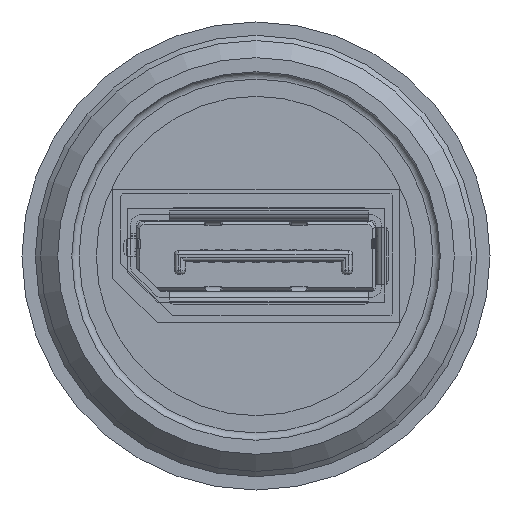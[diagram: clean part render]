
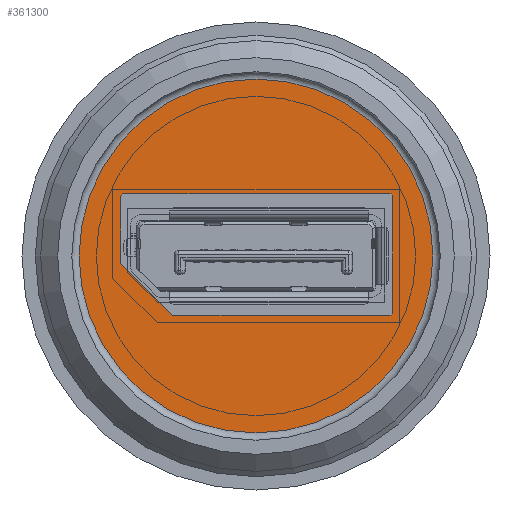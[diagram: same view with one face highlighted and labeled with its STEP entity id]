
A CAD part, front view. The second image highlights one B-rep face of the part: STEP entity #361300.
In plain terms, the highlighted planar face has unit normal (0, -1, 0).
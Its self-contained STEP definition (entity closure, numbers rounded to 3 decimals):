
#361254 = VERTEX_POINT('',#361255);
#361255 = CARTESIAN_POINT('',(11.91,-6.5,0.));
#361264 = EDGE_CURVE('',#361254,#361254,#361265,.T.);
#361265 = CIRCLE('',#361266,11.91);
#361266 = AXIS2_PLACEMENT_3D('',#361267,#361268,#361269);
#361267 = CARTESIAN_POINT('',(0.,-6.5,0.));
#361268 = DIRECTION('',(0.,1.,0.));
#361269 = DIRECTION('',(1.,0.,0.));
#361300 = ADVANCED_FACE('',(#361301,#361304),#361373,.F.);
#361301 = FACE_BOUND('',#361302,.F.);
#361302 = EDGE_LOOP('',(#361303));
#361303 = ORIENTED_EDGE('',*,*,#361264,.T.);
#361304 = FACE_BOUND('',#361305,.F.);
#361305 = EDGE_LOOP('',(#361306,#361317,#361325,#361333,#361341,#361350,
    #361358,#361367));
#361306 = ORIENTED_EDGE('',*,*,#361307,.F.);
#361307 = EDGE_CURVE('',#361308,#361310,#361312,.T.);
#361308 = VERTEX_POINT('',#361309);
#361309 = CARTESIAN_POINT('',(-9.1,-6.5,4.));
#361310 = VERTEX_POINT('',#361311);
#361311 = CARTESIAN_POINT('',(-8.9,-6.5,4.2));
#361312 = CIRCLE('',#361313,0.2);
#361313 = AXIS2_PLACEMENT_3D('',#361314,#361315,#361316);
#361314 = CARTESIAN_POINT('',(-8.9,-6.5,4.));
#361315 = DIRECTION('',(0.,1.,-0.));
#361316 = DIRECTION('',(-1.,0.,0.));
#361317 = ORIENTED_EDGE('',*,*,#361318,.T.);
#361318 = EDGE_CURVE('',#361308,#361319,#361321,.T.);
#361319 = VERTEX_POINT('',#361320);
#361320 = CARTESIAN_POINT('',(-9.1,-6.5,-0.5));
#361321 = LINE('',#361322,#361323);
#361322 = CARTESIAN_POINT('',(-9.1,-6.5,-2.));
#361323 = VECTOR('',#361324,1.);
#361324 = DIRECTION('',(0.,0.,-1.));
#361325 = ORIENTED_EDGE('',*,*,#361326,.F.);
#361326 = EDGE_CURVE('',#361327,#361319,#361329,.T.);
#361327 = VERTEX_POINT('',#361328);
#361328 = CARTESIAN_POINT('',(-5.6,-6.5,-4.));
#361329 = LINE('',#361330,#361331);
#361330 = CARTESIAN_POINT('',(-6.075,-6.5,-3.525));
#361331 = VECTOR('',#361332,1.);
#361332 = DIRECTION('',(-0.707,0.,0.707));
#361333 = ORIENTED_EDGE('',*,*,#361334,.T.);
#361334 = EDGE_CURVE('',#361327,#361335,#361337,.T.);
#361335 = VERTEX_POINT('',#361336);
#361336 = CARTESIAN_POINT('',(9.,-6.5,-4.));
#361337 = LINE('',#361338,#361339);
#361338 = CARTESIAN_POINT('',(-4.55,-6.5,-4.));
#361339 = VECTOR('',#361340,1.);
#361340 = DIRECTION('',(1.,0.,0.));
#361341 = ORIENTED_EDGE('',*,*,#361342,.F.);
#361342 = EDGE_CURVE('',#361343,#361335,#361345,.T.);
#361343 = VERTEX_POINT('',#361344);
#361344 = CARTESIAN_POINT('',(9.2,-6.5,-3.8));
#361345 = CIRCLE('',#361346,0.2);
#361346 = AXIS2_PLACEMENT_3D('',#361347,#361348,#361349);
#361347 = CARTESIAN_POINT('',(9.,-6.5,-3.8));
#361348 = DIRECTION('',(0.,1.,0.));
#361349 = DIRECTION('',(0.,0.,-1.));
#361350 = ORIENTED_EDGE('',*,*,#361351,.F.);
#361351 = EDGE_CURVE('',#361352,#361343,#361354,.T.);
#361352 = VERTEX_POINT('',#361353);
#361353 = CARTESIAN_POINT('',(9.2,-6.5,4.));
#361354 = LINE('',#361355,#361356);
#361355 = CARTESIAN_POINT('',(9.2,-6.5,-2.));
#361356 = VECTOR('',#361357,1.);
#361357 = DIRECTION('',(0.,0.,-1.));
#361358 = ORIENTED_EDGE('',*,*,#361359,.F.);
#361359 = EDGE_CURVE('',#361360,#361352,#361362,.T.);
#361360 = VERTEX_POINT('',#361361);
#361361 = CARTESIAN_POINT('',(9.,-6.5,4.2));
#361362 = CIRCLE('',#361363,0.2);
#361363 = AXIS2_PLACEMENT_3D('',#361364,#361365,#361366);
#361364 = CARTESIAN_POINT('',(9.,-6.5,4.));
#361365 = DIRECTION('',(0.,1.,0.));
#361366 = DIRECTION('',(0.,0.,1.));
#361367 = ORIENTED_EDGE('',*,*,#361368,.F.);
#361368 = EDGE_CURVE('',#361310,#361360,#361369,.T.);
#361369 = LINE('',#361370,#361371);
#361370 = CARTESIAN_POINT('',(-4.55,-6.5,4.2));
#361371 = VECTOR('',#361372,1.);
#361372 = DIRECTION('',(1.,0.,0.));
#361373 = PLANE('',#361374);
#361374 = AXIS2_PLACEMENT_3D('',#361375,#361376,#361377);
#361375 = CARTESIAN_POINT('',(0.,-6.5,0.));
#361376 = DIRECTION('',(0.,1.,0.));
#361377 = DIRECTION('',(1.,0.,0.));
